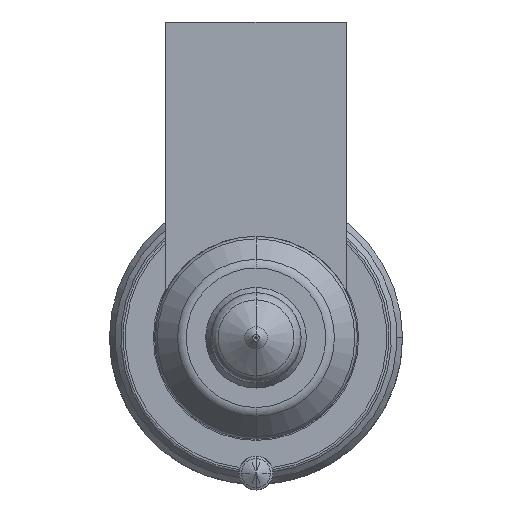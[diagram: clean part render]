
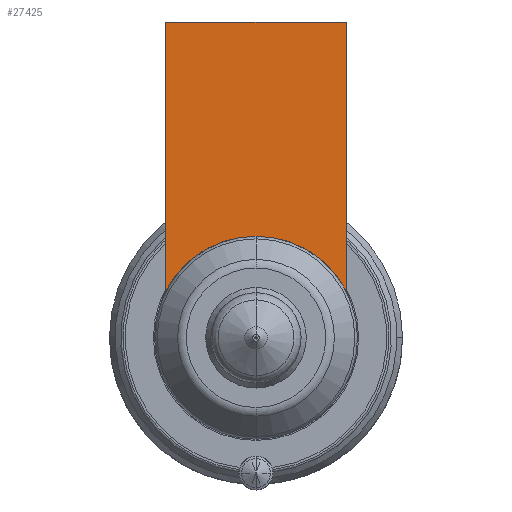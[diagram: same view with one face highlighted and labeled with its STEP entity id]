
A CAD part, front view. The second image highlights one B-rep face of the part: STEP entity #27425.
In plain terms, the highlighted planar face has unit normal (0, -1, 0).
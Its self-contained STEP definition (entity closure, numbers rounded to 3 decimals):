
#26608=DIRECTION('',(1.,0.,0.));
#26609=VECTOR('',#26608,16.);
#26610=CARTESIAN_POINT('',(-8.,-54.,28.));
#26611=LINE('',#26610,#26609);
#26616=CARTESIAN_POINT('',(0.,-54.,0.));
#26617=DIRECTION('',(0.,-1.,0.));
#26618=DIRECTION('',(0.889,0.,0.458));
#26619=AXIS2_PLACEMENT_3D('',#26616,#26617,#26618);
#26624=CARTESIAN_POINT('',(0.,-54.,0.));
#26625=DIRECTION('',(0.,-1.,0.));
#26626=DIRECTION('',(0.,0.,1.));
#26627=AXIS2_PLACEMENT_3D('',#26624,#26625,#26626);
#26653=DIRECTION('',(0.,0.,-1.));
#26654=VECTOR('',#26653,23.877);
#26655=CARTESIAN_POINT('',(-8.,-54.,28.));
#26656=LINE('',#26655,#26654);
#27277=DIRECTION('',(0.,0.,-1.));
#27278=VECTOR('',#27277,23.877);
#27279=CARTESIAN_POINT('',(8.,-54.,28.));
#27280=LINE('',#27279,#27278);
#27330=CARTESIAN_POINT('',(-8.,-54.,28.));
#27331=VERTEX_POINT('',#27330);
#27336=CARTESIAN_POINT('',(8.,-54.,28.));
#27337=VERTEX_POINT('',#27336);
#27340=CARTESIAN_POINT('',(-8.,-54.,4.123));
#27341=VERTEX_POINT('',#27340);
#27344=CARTESIAN_POINT('',(8.,-54.,4.123));
#27345=VERTEX_POINT('',#27344);
#27406=CARTESIAN_POINT('',(0.,-54.,9.));
#27407=VERTEX_POINT('',#27406);
#27408=CARTESIAN_POINT('',(0.,-54.,9.));
#27409=DIRECTION('',(0.,1.,0.));
#27410=DIRECTION('',(0.,0.,-1.));
#27411=AXIS2_PLACEMENT_3D('',#27408,#27409,#27410);
#27412=PLANE('',#27411);
#27414=ORIENTED_EDGE('',*,*,#27413,.F.);
#27416=ORIENTED_EDGE('',*,*,#27415,.T.);
#27418=ORIENTED_EDGE('',*,*,#27417,.T.);
#27420=ORIENTED_EDGE('',*,*,#27419,.T.);
#27422=ORIENTED_EDGE('',*,*,#27421,.T.);
#27423=EDGE_LOOP('',(#27414,#27416,#27418,#27420,#27422));
#27424=FACE_OUTER_BOUND('',#27423,.F.);
#27425=ADVANCED_FACE('',(#27424),#27412,.F.);
#26620=CIRCLE('',#26619,9.);
#26628=CIRCLE('',#26627,9.);
#27413=EDGE_CURVE('',#27331,#27341,#26656,.T.);
#27415=EDGE_CURVE('',#27331,#27337,#26611,.T.);
#27417=EDGE_CURVE('',#27337,#27345,#27280,.T.);
#27419=EDGE_CURVE('',#27345,#27407,#26620,.T.);
#27421=EDGE_CURVE('',#27407,#27341,#26628,.T.);
